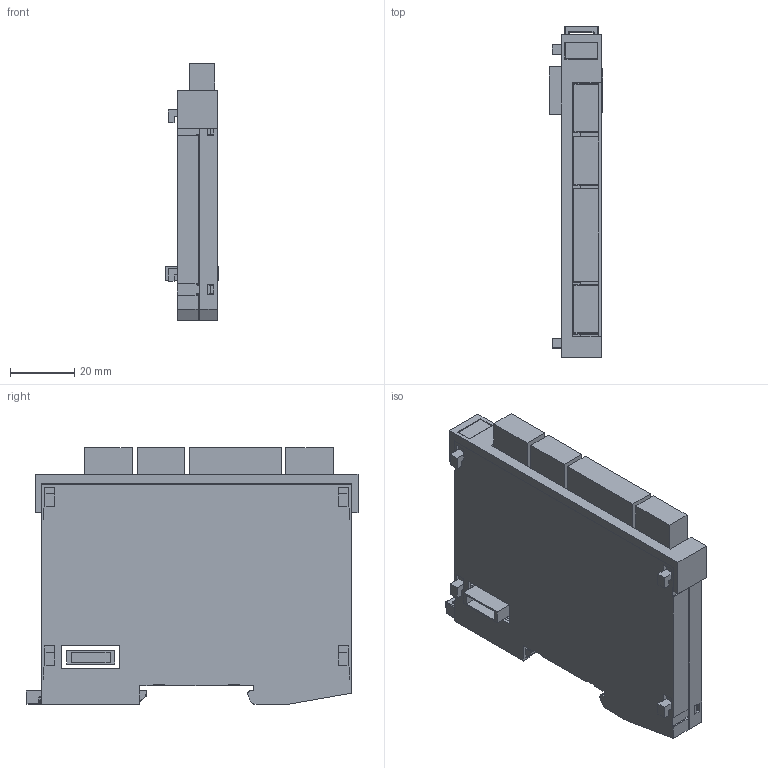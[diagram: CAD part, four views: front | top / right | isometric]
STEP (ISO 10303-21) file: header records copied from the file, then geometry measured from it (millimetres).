
FILE_DESCRIPTION (( 'STEP AP214' ), '1' );
FILE_NAME ('SR022 support.STEP', '2017-05-31T08:49:35', ( 'SIGMATEK GmbH & Co KG' ), ( 'SIGMATEK GmbH & Co KG' ), 'SwSTEP 2.0', 'SolidWorks 2017', '' );
FILE_SCHEMA (( 'AUTOMOTIVE_DESIGN' ));
Length unit declared in the file: millimetre
Products named in the file (13): LP_SR022; Dummy_______________8pol Buchse; 4110251342_MF 10-5 MC CABUR_1854510000; Dummy_4110260022 8pol.Federkraftstecker 1reih. 1952322; Dummy_4110262104 4pol.Federkraftstecker f.2reih 1952283; Dummy_4110251205 4pol.Minicombicon-Grundgehäuse RM3,5 1937512; Dummy_4080225346 Erni Stift; Dummy_4080225345 Erni Buchse; S-Dias Rasthaken 20130313; Schieber_f Suport; S-Dias Schale rechts_f Suport; S-Dias Schale links_f Suport; SR022 support
Assembly tree (16 placements, depth 3):
  SR022 support
    4110251342_MF 10-5 MC CABUR_1854510000
    S-Dias Schale links_f Suport
    S-Dias Schale rechts_f Suport
    Schieber_f Suport
    S-Dias Rasthaken 20130313
    LP_SR022
      Dummy_4080225345 Erni Buchse
      Dummy_4080225346 Erni Stift
      Dummy_4110251205 4pol.Minicombicon-Grundgehäuse RM3,5 1937512  x3
      Dummy_4110262104 4pol.Federkraftstecker f.2reih 1952283  x3
      Dummy_4110260022 8pol.Federkraftstecker 1reih. 1952322
      Dummy_______________8pol Buchse
Bounding box: 16.8 x 103.61 x 80.15 mm (x, y, z)
Volume: 34712.8 mm3; surface area: 46112.5 mm2
Topology: 15 solids, 15 shells, 803 faces, 2323 edges, 1538 vertices
Faces by surface type: plane 564, cylinder 128, bspline 55, cone 28, torus 15, sphere 13
Entity records: 30501 total; most frequent: CARTESIAN_POINT 7241, ORIENTED_EDGE 4484, DIRECTION 3503, EDGE_CURVE 2242, LINE 1593, VECTOR 1593, VERTEX_POINT 1490, AXIS2_PLACEMENT_3D 955
